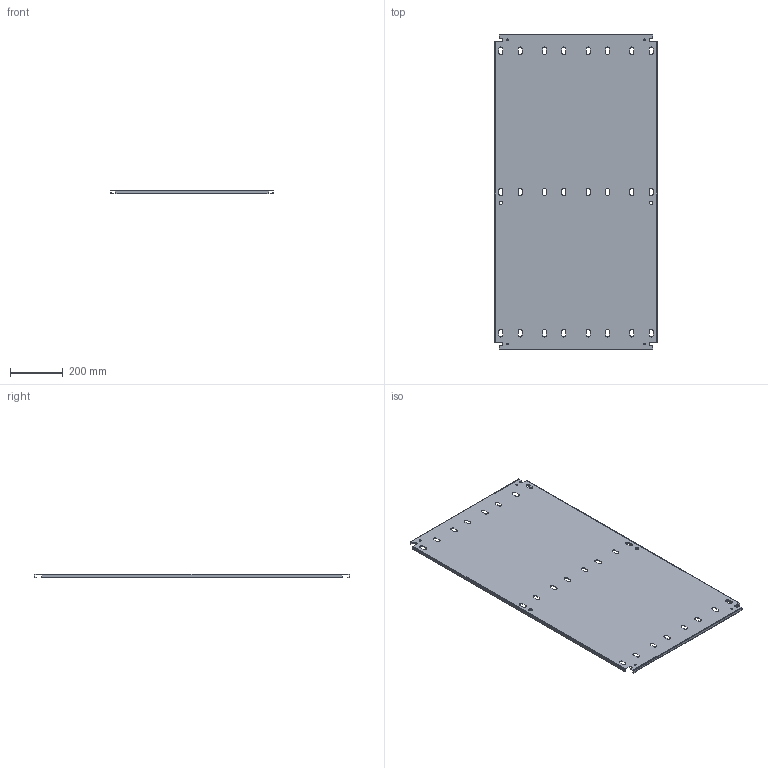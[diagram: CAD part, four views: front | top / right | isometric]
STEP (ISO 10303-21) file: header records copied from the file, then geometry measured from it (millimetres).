
FILE_DESCRIPTION(/* description */ ('1412BTCU 24.125" x 47" Inner Panel'),/* implementation_level */ '2;1');
FILE_NAME(/* name */ 'C:\Vault_Workspace\Inventor_Dwg\BoxCad\Result\1412BTCU061004\e-mail\3D\1412BTCU061004IP1.stp',/* time_stamp */ '2022-09-13T09:17:48-04:00',/* author */ ('BoxCad'),/* organization */ (''),/* preprocessor_version */ 'ST-DEVELOPER v18.1',/* originating_system */ 'Autodesk Inventor 2020',/* authorisation */ '');
FILE_SCHEMA (('AUTOMOTIVE_DESIGN { 1 0 10303 214 3 1 1 }'));
Length unit declared in the file: inch
Products named in the file (2): 1412BTCU061004IP1; 1412BTCU061004IP1-P
Assembly tree (1 placements, depth 2):
  1412BTCU061004IP1
    1412BTCU061004IP1-P
Bounding box: 612.77 x 1193.8 x 13 mm (x, y, z)
Volume: 1352039 mm3; surface area: 1575696 mm2
Topology: 1 solids, 1 shells, 216 faces, 642 edges, 428 vertices
Faces by surface type: plane 118, cylinder 98
Full cylindrical faces by diameter (mm): 7.366 x4, 12.7 x2
Entity records: 7471 total; most frequent: CARTESIAN_POINT 1289, ORIENTED_EDGE 1284, DIRECTION 1276, EDGE_CURVE 642, LINE 446, VECTOR 446, VERTEX_POINT 428, AXIS2_PLACEMENT_3D 415
